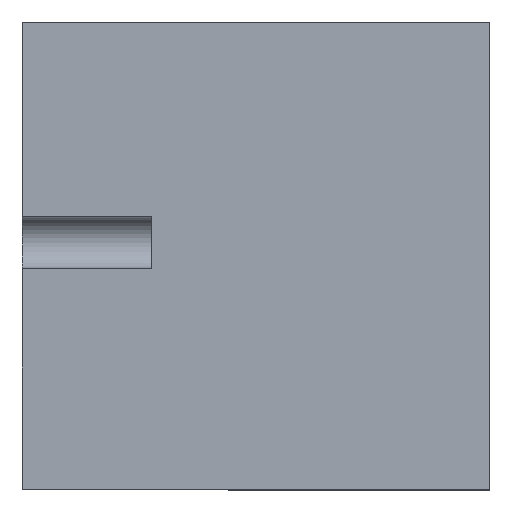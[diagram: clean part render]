
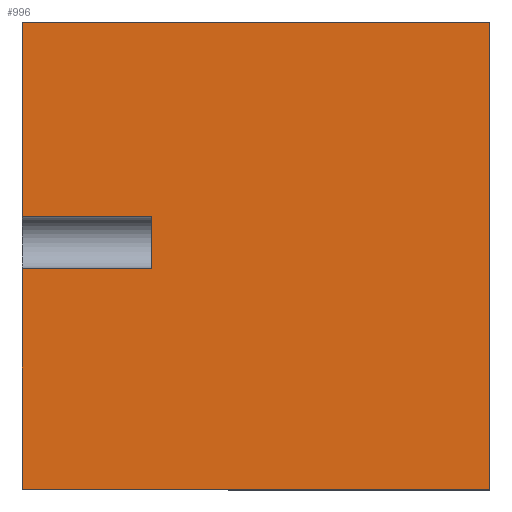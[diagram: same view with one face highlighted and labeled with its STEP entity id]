
A CAD part, top view. The second image highlights one B-rep face of the part: STEP entity #996.
In plain terms, the highlighted planar face has unit normal (0, 0, 1).
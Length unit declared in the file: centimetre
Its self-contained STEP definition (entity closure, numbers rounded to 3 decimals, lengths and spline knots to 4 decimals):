
#9 = CARTESIAN_POINT ( 'NONE',  ( 276.5816, 471.6205, 1000. ) ) ;
#11 = DIRECTION ( 'NONE',  ( -1., 0., 0. ) ) ;
#21 = LINE ( 'NONE', #497, #669 ) ;
#81 = EDGE_CURVE ( 'NONE', #627, #387, #877, .T. ) ;
#85 = VECTOR ( 'NONE', #247, 100. ) ;
#87 = EDGE_CURVE ( 'NONE', #916, #449, #21, .T. ) ;
#89 = LINE ( 'NONE', #9, #872 ) ;
#97 = VECTOR ( 'NONE', #994, 100. ) ;
#105 = AXIS2_PLACEMENT_3D ( 'NONE', #123, #909, #764 ) ;
#123 = CARTESIAN_POINT ( 'NONE',  ( 0., 0., 1000. ) ) ;
#126 = CARTESIAN_POINT ( 'NONE',  ( 0., 471.6205, 1000. ) ) ;
#128 = VERTEX_POINT ( 'NONE', #899 ) ;
#134 = LINE ( 'NONE', #458, #97 ) ;
#167 = CARTESIAN_POINT ( 'NONE',  ( 1000., 1000., 1000. ) ) ;
#171 = CARTESIAN_POINT ( 'NONE',  ( 276.5816, 584.4093, 1000. ) ) ;
#175 = EDGE_CURVE ( 'NONE', #128, #449, #974, .T. ) ;
#194 = VECTOR ( 'NONE', #967, 100. ) ;
#208 = EDGE_LOOP ( 'NONE', ( #281, #1014, #542, #1000, #471, #751, #487, #770 ) ) ;
#216 = LINE ( 'NONE', #679, #194 ) ;
#217 = EDGE_CURVE ( 'NONE', #916, #857, #216, .T. ) ;
#247 = DIRECTION ( 'NONE',  ( 1., 0., 0. ) ) ;
#281 = ORIENTED_EDGE ( 'NONE', *, *, #87, .F. ) ;
#324 = CARTESIAN_POINT ( 'NONE',  ( 1000., 1000., 1000. ) ) ;
#343 = CARTESIAN_POINT ( 'NONE',  ( 0., 1000., 1000. ) ) ;
#369 = VERTEX_POINT ( 'NONE', #126 ) ;
#387 = VERTEX_POINT ( 'NONE', #585 ) ;
#405 = CARTESIAN_POINT ( 'NONE',  ( 0., 0., 1000. ) ) ;
#449 = VERTEX_POINT ( 'NONE', #596 ) ;
#458 = CARTESIAN_POINT ( 'NONE',  ( 0., 1000., 1000. ) ) ;
#471 = ORIENTED_EDGE ( 'NONE', *, *, #81, .T. ) ;
#487 = ORIENTED_EDGE ( 'NONE', *, *, #1032, .T. ) ;
#491 = CARTESIAN_POINT ( 'NONE',  ( 0., 1000., 1000. ) ) ;
#497 = CARTESIAN_POINT ( 'NONE',  ( 276.5816, 584.4093, 1000. ) ) ;
#508 = VECTOR ( 'NONE', #958, 100. ) ;
#525 = FACE_OUTER_BOUND ( 'NONE', #208, .T. ) ;
#542 = ORIENTED_EDGE ( 'NONE', *, *, #939, .T. ) ;
#585 = CARTESIAN_POINT ( 'NONE',  ( 1000., 0., 1000. ) ) ;
#596 = CARTESIAN_POINT ( 'NONE',  ( 0., 584.4093, 1000. ) ) ;
#627 = VERTEX_POINT ( 'NONE', #628 ) ;
#628 = CARTESIAN_POINT ( 'NONE',  ( 0., 0., 1000. ) ) ;
#642 = EDGE_CURVE ( 'NONE', #387, #852, #653, .T. ) ;
#648 = DIRECTION ( 'NONE',  ( 0., 1., 0. ) ) ;
#653 = LINE ( 'NONE', #167, #1026 ) ;
#656 = CARTESIAN_POINT ( 'NONE',  ( 276.5816, 471.6205, 1000. ) ) ;
#669 = VECTOR ( 'NONE', #11, 100. ) ;
#679 = CARTESIAN_POINT ( 'NONE',  ( 276.5816, 0., 1000. ) ) ;
#683 = EDGE_CURVE ( 'NONE', #369, #627, #878, .T. ) ;
#724 = DIRECTION ( 'NONE',  ( -1., 0., 0. ) ) ;
#751 = ORIENTED_EDGE ( 'NONE', *, *, #642, .T. ) ;
#764 = DIRECTION ( 'NONE',  ( 1., 0., 0. ) ) ;
#770 = ORIENTED_EDGE ( 'NONE', *, *, #175, .T. ) ;
#774 = VECTOR ( 'NONE', #894, 100. ) ;
#847 = PLANE ( 'NONE',  #105 ) ;
#852 = VERTEX_POINT ( 'NONE', #324 ) ;
#857 = VERTEX_POINT ( 'NONE', #656 ) ;
#872 = VECTOR ( 'NONE', #724, 100. ) ;
#877 = LINE ( 'NONE', #405, #85 ) ;
#878 = LINE ( 'NONE', #491, #508 ) ;
#894 = DIRECTION ( 'NONE',  ( 0., -1., 0. ) ) ;
#899 = CARTESIAN_POINT ( 'NONE',  ( 0., 1000., 1000. ) ) ;
#909 = DIRECTION ( 'NONE',  ( 0., 0., 1. ) ) ;
#916 = VERTEX_POINT ( 'NONE', #171 ) ;
#939 = EDGE_CURVE ( 'NONE', #857, #369, #89, .T. ) ;
#958 = DIRECTION ( 'NONE',  ( 0., -1., 0. ) ) ;
#967 = DIRECTION ( 'NONE',  ( 0., -1., 0. ) ) ;
#974 = LINE ( 'NONE', #343, #774 ) ;
#994 = DIRECTION ( 'NONE',  ( -1., 0., 0. ) ) ;
#996 = ADVANCED_FACE ( 'NONE', ( #525 ), #847, .T. ) ;
#1000 = ORIENTED_EDGE ( 'NONE', *, *, #683, .T. ) ;
#1014 = ORIENTED_EDGE ( 'NONE', *, *, #217, .T. ) ;
#1026 = VECTOR ( 'NONE', #648, 100. ) ;
#1032 = EDGE_CURVE ( 'NONE', #852, #128, #134, .T. ) ;
